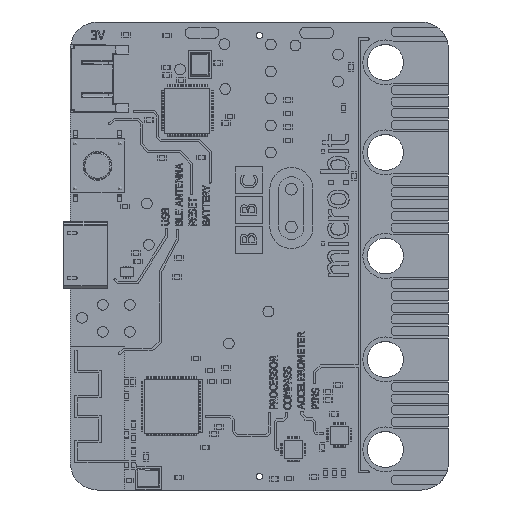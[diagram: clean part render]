
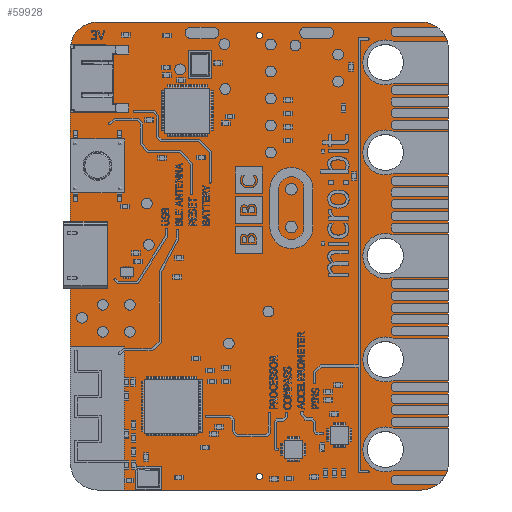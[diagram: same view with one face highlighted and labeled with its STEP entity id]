
A CAD part, front view. The second image highlights one B-rep face of the part: STEP entity #59928.
In plain terms, the highlighted planar face has unit normal (0, -1, 0).
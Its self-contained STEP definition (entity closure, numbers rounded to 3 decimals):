
#2470=LINE('',#81536,#8857);
#2474=LINE('',#81544,#8861);
#2479=LINE('',#81556,#8866);
#2480=LINE('',#81560,#8867);
#2481=LINE('',#81564,#8868);
#2482=LINE('',#81567,#8869);
#8857=VECTOR('',#67387,6.);
#8861=VECTOR('',#67393,16.);
#8866=VECTOR('',#67404,33.);
#8867=VECTOR('',#67407,46.);
#8868=VECTOR('',#67410,36.);
#8869=VECTOR('',#67413,33.);
#15247=PLANE('',#63500);
#17579=FACE_BOUND('',#21182,.T.);
#17580=FACE_BOUND('',#21183,.T.);
#17581=FACE_BOUND('',#21184,.T.);
#17582=FACE_BOUND('',#21185,.T.);
#17583=FACE_BOUND('',#21186,.T.);
#17584=FACE_BOUND('',#21187,.T.);
#17585=FACE_BOUND('',#21188,.T.);
#17828=FACE_OUTER_BOUND('',#21181,.T.);
#21181=EDGE_LOOP('',(#39613,#39614,#39615,#39616,#39617,#39618,#39619,#39620,
#39621));
#21182=EDGE_LOOP('',(#39622));
#21183=EDGE_LOOP('',(#39623));
#21184=EDGE_LOOP('',(#39624));
#21185=EDGE_LOOP('',(#39625));
#21186=EDGE_LOOP('',(#39626));
#21187=EDGE_LOOP('',(#39627));
#21188=EDGE_LOOP('',(#39628));
#24771=CIRCLE('',#63491,0.35);
#24773=CIRCLE('',#63494,0.35);
#24776=CIRCLE('',#63501,3.);
#24777=CIRCLE('',#63502,3.);
#24778=CIRCLE('',#63503,3.);
#24779=CIRCLE('',#63504,2.);
#24780=CIRCLE('',#63505,2.);
#24781=CIRCLE('',#63506,2.);
#24782=CIRCLE('',#63507,2.);
#24783=CIRCLE('',#63508,2.);
#25657=VERTEX_POINT('',#81524);
#25659=VERTEX_POINT('',#81529);
#25661=VERTEX_POINT('',#81534);
#25662=VERTEX_POINT('',#81535);
#25665=VERTEX_POINT('',#81543);
#25669=VERTEX_POINT('',#81555);
#25670=VERTEX_POINT('',#81557);
#25671=VERTEX_POINT('',#81559);
#25672=VERTEX_POINT('',#81561);
#25673=VERTEX_POINT('',#81563);
#25674=VERTEX_POINT('',#81565);
#25675=VERTEX_POINT('',#81568);
#25676=VERTEX_POINT('',#81570);
#25677=VERTEX_POINT('',#81572);
#25678=VERTEX_POINT('',#81574);
#25679=VERTEX_POINT('',#81576);
#31233=EDGE_CURVE('',#25657,#25657,#24771,.T.);
#31235=EDGE_CURVE('',#25659,#25659,#24773,.T.);
#31237=EDGE_CURVE('',#25661,#25662,#2470,.T.);
#31241=EDGE_CURVE('',#25662,#25665,#2474,.T.);
#31247=EDGE_CURVE('',#25669,#25665,#2479,.T.);
#31248=EDGE_CURVE('',#25670,#25669,#24776,.T.);
#31249=EDGE_CURVE('',#25671,#25670,#2480,.T.);
#31250=EDGE_CURVE('',#25672,#25671,#24777,.T.);
#31251=EDGE_CURVE('',#25673,#25672,#2481,.T.);
#31252=EDGE_CURVE('',#25674,#25673,#24778,.T.);
#31253=EDGE_CURVE('',#25661,#25674,#2482,.T.);
#31254=EDGE_CURVE('',#25675,#25675,#24779,.T.);
#31255=EDGE_CURVE('',#25676,#25676,#24780,.T.);
#31256=EDGE_CURVE('',#25677,#25677,#24781,.T.);
#31257=EDGE_CURVE('',#25678,#25678,#24782,.T.);
#31258=EDGE_CURVE('',#25679,#25679,#24783,.T.);
#39613=ORIENTED_EDGE('',*,*,#31237,.T.);
#39614=ORIENTED_EDGE('',*,*,#31241,.T.);
#39615=ORIENTED_EDGE('',*,*,#31247,.F.);
#39616=ORIENTED_EDGE('',*,*,#31248,.F.);
#39617=ORIENTED_EDGE('',*,*,#31249,.F.);
#39618=ORIENTED_EDGE('',*,*,#31250,.F.);
#39619=ORIENTED_EDGE('',*,*,#31251,.F.);
#39620=ORIENTED_EDGE('',*,*,#31252,.F.);
#39621=ORIENTED_EDGE('',*,*,#31253,.F.);
#39622=ORIENTED_EDGE('',*,*,#31233,.T.);
#39623=ORIENTED_EDGE('',*,*,#31235,.T.);
#39624=ORIENTED_EDGE('',*,*,#31254,.T.);
#39625=ORIENTED_EDGE('',*,*,#31255,.T.);
#39626=ORIENTED_EDGE('',*,*,#31256,.T.);
#39627=ORIENTED_EDGE('',*,*,#31257,.T.);
#39628=ORIENTED_EDGE('',*,*,#31258,.T.);
#59928=ADVANCED_FACE('',(#17828,#17579,#17580,#17581,#17582,#17583,#17584,
#17585),#15247,.F.);
#63491=AXIS2_PLACEMENT_3D('',#81525,#67375,#67376);
#63494=AXIS2_PLACEMENT_3D('',#81530,#67381,#67382);
#63500=AXIS2_PLACEMENT_3D('',#81554,#67402,#67403);
#63501=AXIS2_PLACEMENT_3D('',#81558,#67405,#67406);
#63502=AXIS2_PLACEMENT_3D('',#81562,#67408,#67409);
#63503=AXIS2_PLACEMENT_3D('',#81566,#67411,#67412);
#63504=AXIS2_PLACEMENT_3D('',#81569,#67414,#67415);
#63505=AXIS2_PLACEMENT_3D('',#81571,#67416,#67417);
#63506=AXIS2_PLACEMENT_3D('',#81573,#67418,#67419);
#63507=AXIS2_PLACEMENT_3D('',#81575,#67420,#67421);
#63508=AXIS2_PLACEMENT_3D('',#81577,#67422,#67423);
#67375=DIRECTION('center_axis',(0.,1.,0.));
#67376=DIRECTION('ref_axis',(-1.,0.,0.));
#67381=DIRECTION('center_axis',(0.,1.,0.));
#67382=DIRECTION('ref_axis',(-1.,0.,0.));
#67387=DIRECTION('',(1.,0.,0.));
#67393=DIRECTION('',(0.,0.,-1.));
#67402=DIRECTION('center_axis',(0.,1.,0.));
#67403=DIRECTION('ref_axis',(0.,0.,1.));
#67404=DIRECTION('',(-1.,0.,0.));
#67405=DIRECTION('center_axis',(0.,1.,0.));
#67406=DIRECTION('ref_axis',(1.,0.,0.));
#67407=DIRECTION('',(0.,0.,-1.));
#67408=DIRECTION('center_axis',(0.,1.,0.));
#67409=DIRECTION('ref_axis',(0.,0.,1.));
#67410=DIRECTION('',(1.,0.,0.));
#67411=DIRECTION('center_axis',(0.,1.,0.));
#67412=DIRECTION('ref_axis',(-1.,0.,0.));
#67413=DIRECTION('',(0.,0.,1.));
#67414=DIRECTION('center_axis',(0.,1.,0.));
#67415=DIRECTION('ref_axis',(-1.,0.,0.));
#67416=DIRECTION('center_axis',(0.,1.,0.));
#67417=DIRECTION('ref_axis',(-1.,0.,0.));
#67418=DIRECTION('center_axis',(0.,1.,0.));
#67419=DIRECTION('ref_axis',(-1.,0.,0.));
#67420=DIRECTION('center_axis',(0.,1.,0.));
#67421=DIRECTION('ref_axis',(-1.,0.,0.));
#67422=DIRECTION('center_axis',(0.,1.,0.));
#67423=DIRECTION('ref_axis',(-1.,0.,0.));
#81524=CARTESIAN_POINT('',(0.35,0.,24.5));
#81525=CARTESIAN_POINT('Origin',(0.,0.,24.5));
#81529=CARTESIAN_POINT('',(0.35,0.,-24.5));
#81530=CARTESIAN_POINT('Origin',(0.,0.,-24.5));
#81534=CARTESIAN_POINT('',(-21.,0.,-10.));
#81535=CARTESIAN_POINT('',(-15.,0.,-10.));
#81536=CARTESIAN_POINT('',(-10.5,0.,-10.));
#81543=CARTESIAN_POINT('',(-15.,0.,-26.));
#81544=CARTESIAN_POINT('',(-15.,0.,-5.));
#81554=CARTESIAN_POINT('Origin',(0.,0.,0.));
#81555=CARTESIAN_POINT('',(18.,0.,-26.));
#81556=CARTESIAN_POINT('',(18.,0.,-26.));
#81557=CARTESIAN_POINT('',(21.,0.,-23.));
#81558=CARTESIAN_POINT('Origin',(18.,0.,-23.));
#81559=CARTESIAN_POINT('',(21.,0.,23.));
#81560=CARTESIAN_POINT('',(21.,0.,23.));
#81561=CARTESIAN_POINT('',(18.,0.,26.));
#81562=CARTESIAN_POINT('Origin',(18.,0.,23.));
#81563=CARTESIAN_POINT('',(-18.,0.,26.));
#81564=CARTESIAN_POINT('',(-18.,0.,26.));
#81565=CARTESIAN_POINT('',(-21.,0.,23.));
#81566=CARTESIAN_POINT('Origin',(-18.,0.,23.));
#81567=CARTESIAN_POINT('',(-21.,0.,-23.));
#81568=CARTESIAN_POINT('',(16.,0.,-21.5));
#81569=CARTESIAN_POINT('Origin',(14.,0.,-21.5));
#81570=CARTESIAN_POINT('',(16.,0.,0.));
#81571=CARTESIAN_POINT('Origin',(14.,0.,0.));
#81572=CARTESIAN_POINT('',(16.,0.,21.5));
#81573=CARTESIAN_POINT('Origin',(14.,0.,21.5));
#81574=CARTESIAN_POINT('',(16.,0.,11.5));
#81575=CARTESIAN_POINT('Origin',(14.,0.,11.5));
#81576=CARTESIAN_POINT('',(16.,0.,-11.5));
#81577=CARTESIAN_POINT('Origin',(14.,0.,-11.5));
